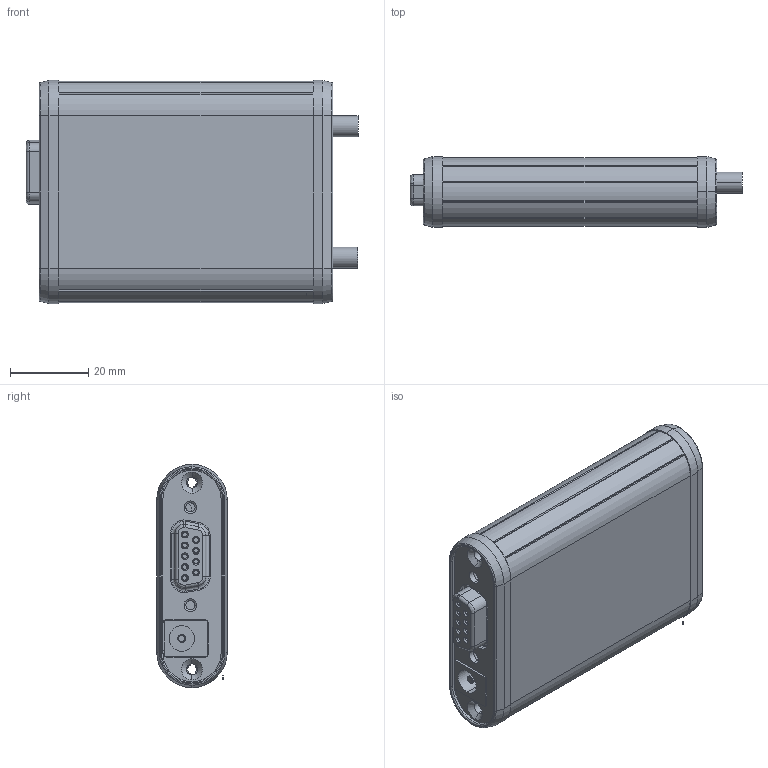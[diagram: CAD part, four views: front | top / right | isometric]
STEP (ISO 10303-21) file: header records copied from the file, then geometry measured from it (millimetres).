
FILE_DESCRIPTION (( 'STEP AP214' ), '1' );
FILE_NAME ('Nimbelink S2C Link Shell.STEP', '2016-05-05T19:43:31', ( 'Admin' ), ( 'Cardiovascular Systems, Inc' ), 'SwSTEP 2.0', 'SolidWorks 2016', '' );
FILE_SCHEMA (( 'AUTOMOTIVE_DESIGN' ));
Length unit declared in the file: inch
Products named in the file (16): c-2229333-2-e-3d; cover_serial; cover back_serial; 20039rev4; PJ-202A; i10033526 ; Part_1; Assembly-1_Asm_2; Assembly-1_Asm_1; 1.2; SMA; K31X(HT)-E9S-N_rA5(rA3); body; Nimbelink S2C Link Shell; 20040A; J2
Assembly tree (17 placements, depth 6):
  Nimbelink S2C Link Shell
    body  x2
    20039rev4
      K31X(HT)-E9S-N_rA5(rA3)
      SMA  x2
      i10033526 
        Assembly-1_Asm_2
          Assembly-1_Asm_1
            1.2
        Part_1
      PJ-202A
    cover back_serial
    cover_serial
    20040A
      J2
        c-2229333-2-e-3d
Bounding box: 84.81 x 18 x 57 mm (x, y, z)
Volume: 23571.9 mm3; surface area: 34228.5 mm2
Topology: 10 solids, 17 shells, 3200 faces, 9249 edges, 6008 vertices
Faces by surface type: plane 2101, cylinder 945, bspline 85, cone 55, torus 14
Entity records: 115803 total; most frequent: CARTESIAN_POINT 24265, ORIENTED_EDGE 17867, DIRECTION 15511, EDGE_CURVE 8944, LINE 6549, VECTOR 6549, VERTEX_POINT 5805, AXIS2_PLACEMENT_3D 4481
